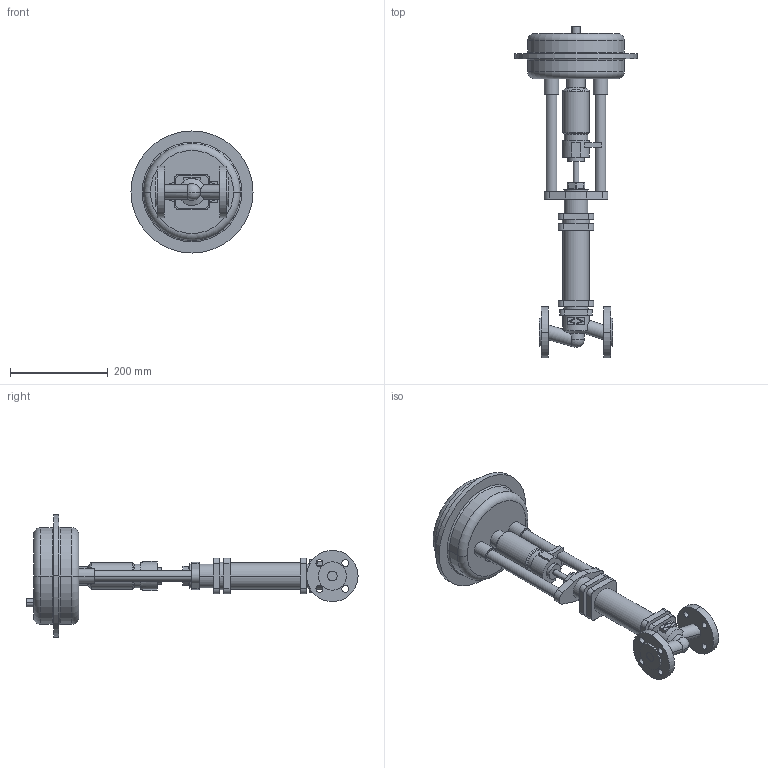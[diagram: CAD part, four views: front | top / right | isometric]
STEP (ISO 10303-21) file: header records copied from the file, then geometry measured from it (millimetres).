
FILE_DESCRIPTION(('OneSpaceDesigner STEP Export'),'2;1');
FILE_NAME('c000000374.stp','2005-12-12T10:36:45',(''),(''),'OneSpace Designer STEP processor for AP203 (Solid Model)','OneSpace Designer 13.20A 18-Aug-2005 (C) CoCreate Software GmbH','');
FILE_SCHEMA(('CONFIG_CONTROL_DESIGN'));
Length unit declared in the file: millimetre
Products named in the file (1): 1
Bounding box: 250 x 679.5 x 250 mm (x, y, z)
Volume: 4742517.1 mm3; surface area: 362039 mm2
Topology: 1 solids, 1 shells, 215 faces, 530 edges, 346 vertices
Faces by surface type: cylinder 102, plane 89, torus 16, cone 6, sphere 2
Entity records: 6005 total; most frequent: CARTESIAN_POINT 1138, ORIENTED_EDGE 1056, DIRECTION 915, EDGE_CURVE 528, VERTEX_POINT 346, AXIS2_PLACEMENT_3D 328, EDGE_LOOP 266, VECTOR 259
